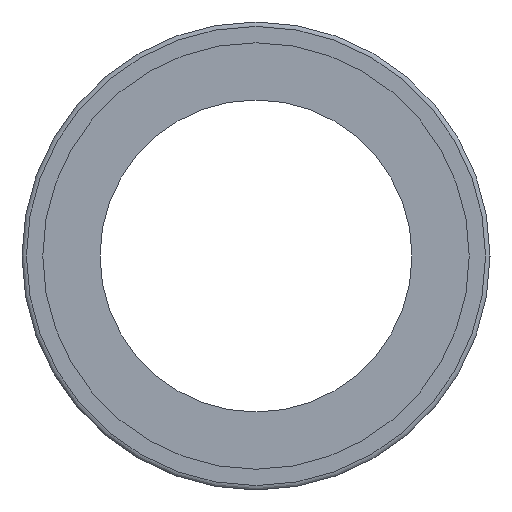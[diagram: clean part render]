
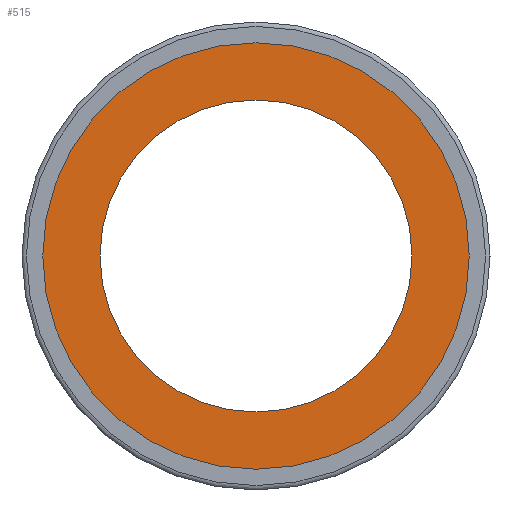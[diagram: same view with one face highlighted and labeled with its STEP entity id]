
A CAD part, left-side view. The second image highlights one B-rep face of the part: STEP entity #515.
In plain terms, the highlighted planar face has unit normal (-1, 0, 0).
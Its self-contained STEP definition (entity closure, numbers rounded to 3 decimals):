
#488=CARTESIAN_POINT('',(0.1,0.0,35.5));
#489=DIRECTION('',(-1.0,0.0,0.0));
#490=DIRECTION('',(0.0,0.0,1.0));
#491=AXIS2_PLACEMENT_3D('',#488,#489,#490);
#492=PLANE('',#491);
#493=CARTESIAN_POINT('',(0.1,0.0,41.));
#494=VERTEX_POINT('',#493);
#495=CARTESIAN_POINT('',(0.1,0.0,0.));
#496=DIRECTION('',(1.0,0.0,0.0));
#497=DIRECTION('',(0.0,0.0,1.0));
#498=AXIS2_PLACEMENT_3D('',#495,#496,#497);
#499=CIRCLE('',#498,41.);
#500=EDGE_CURVE('',#494,#494,#499,.T.);
#501=ORIENTED_EDGE('',*,*,#500,.F.);
#502=EDGE_LOOP('',(#501));
#503=FACE_OUTER_BOUND('',#502,.T.);
#504=CARTESIAN_POINT('',(0.1,0.0,30.));
#505=VERTEX_POINT('',#504);
#506=CARTESIAN_POINT('',(0.1,0.0,0.));
#507=DIRECTION('',(-1.0,0.0,0.0));
#508=DIRECTION('',(0.0,0.0,1.0));
#509=AXIS2_PLACEMENT_3D('',#506,#507,#508);
#510=CIRCLE('',#509,30.);
#511=EDGE_CURVE('',#505,#505,#510,.T.);
#512=ORIENTED_EDGE('',*,*,#511,.F.);
#513=EDGE_LOOP('',(#512));
#514=FACE_BOUND('',#513,.T.);
#515=ADVANCED_FACE('',(#503,#514),#492,.T.);
